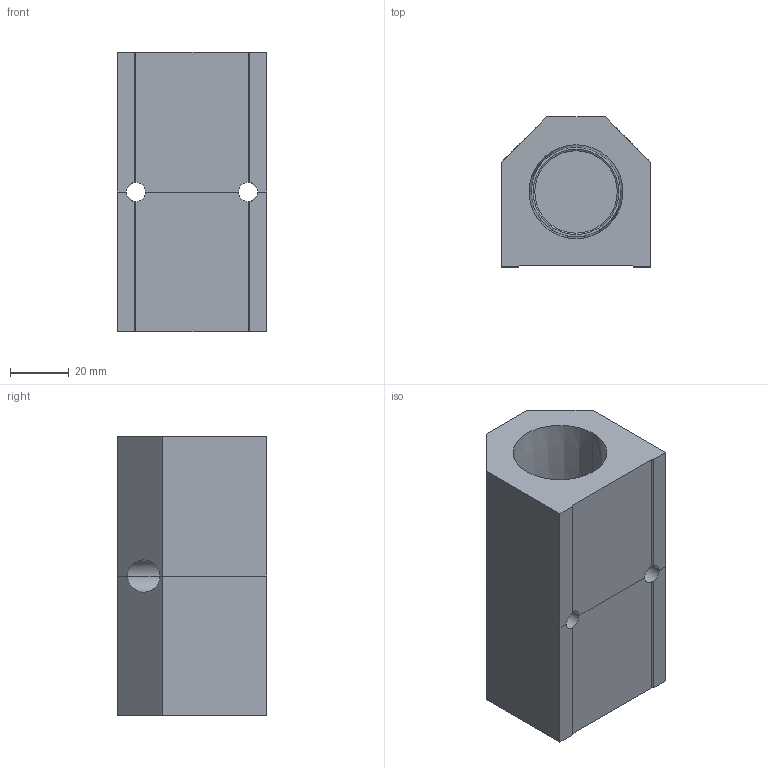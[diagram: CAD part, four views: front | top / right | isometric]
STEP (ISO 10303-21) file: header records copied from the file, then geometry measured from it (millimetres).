
FILE_DESCRIPTION (( 'STEP AP214' ), '1' );
FILE_NAME ('ALM2C-N4N16-95RB.STEP', '2023-11-02T06:08:26', ( '' ), ( '' ), 'SwSTEP 2.0', 'SolidWorks 2020', '' );
FILE_SCHEMA (( 'AUTOMOTIVE_DESIGN' ));
Length unit declared in the file: millimetre
Products named in the file (1): ALM2C-N4N16-95RB
Bounding box: 50.8 x 50.8 x 95 mm (x, y, z)
Volume: 149758.8 mm3; surface area: 36353.2 mm2
Topology: 2 solids, 2 shells, 301 faces, 782 edges, 518 vertices
Faces by surface type: plane 211, bspline 58, cylinder 20, cone 12
Entity records: 15675 total; most frequent: CARTESIAN_POINT 6008, ORIENTED_EDGE 1564, DIRECTION 1188, EDGE_CURVE 782, VECTOR 604, LINE 604, VERTEX_POINT 518, EDGE_LOOP 338
